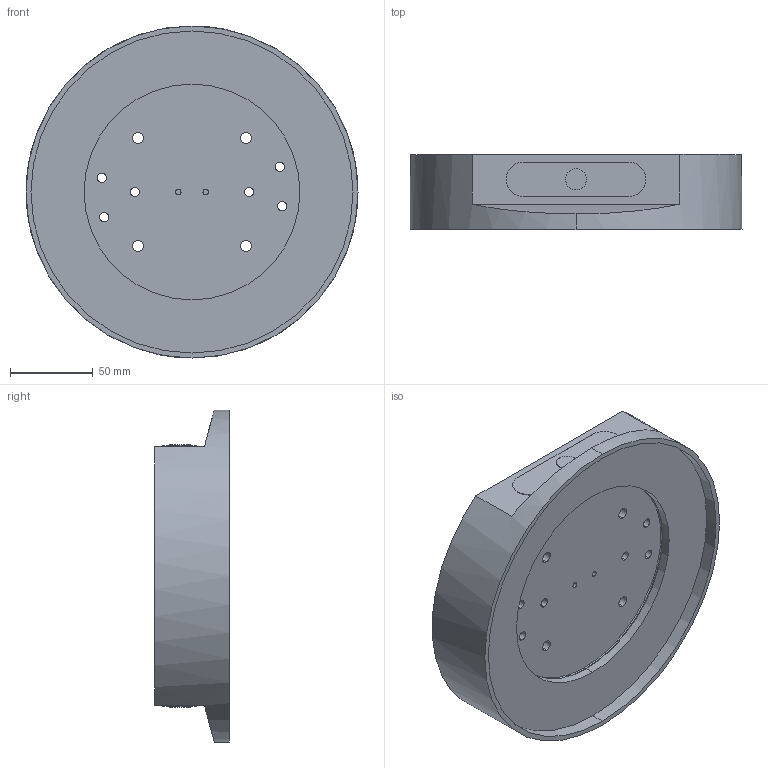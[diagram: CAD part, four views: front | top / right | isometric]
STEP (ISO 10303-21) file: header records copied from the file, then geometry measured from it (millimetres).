
FILE_DESCRIPTION (( 'STEP AP214' ), '1' );
FILE_NAME ('D_RL96S-NCT200.STEP', '2020-03-11T18:00:34', ( '' ), ( '' ), 'SwSTEP 2.0', 'SolidWorks 2018', '' );
FILE_SCHEMA (( 'AUTOMOTIVE_DESIGN' ));
Length unit declared in the file: inch
Products named in the file (1): D_RL96S-NCT200
Bounding box: 200 x 45 x 200 mm (x, y, z)
Volume: 812619.5 mm3; surface area: 138465.7 mm2
Topology: 1 solids, 1 shells, 238 faces, 562 edges, 364 vertices
Faces by surface type: cylinder 142, plane 68, cone 26, torus 2
Entity records: 8228 total; most frequent: CARTESIAN_POINT 1699, DIRECTION 1316, ORIENTED_EDGE 1124, EDGE_CURVE 562, AXIS2_PLACEMENT_3D 549, VERTEX_POINT 364, CIRCLE 310, EDGE_LOOP 308
